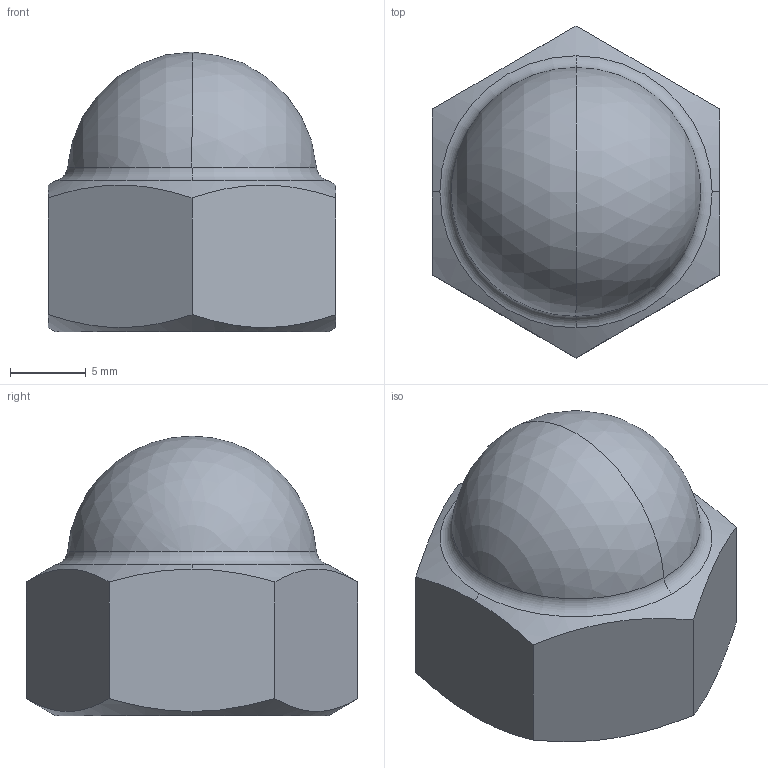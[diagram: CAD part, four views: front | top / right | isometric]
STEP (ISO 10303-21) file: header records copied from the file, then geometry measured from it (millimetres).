
FILE_DESCRIPTION (( 'STEP AP214' ), '1' );
FILE_NAME ('Domed-cap-nut-3-2-M12.STEP', '2024-03-24T06:39:40', ( 'ASIS User' ), ( 'ASIS User' ), 'SwSTEP 2.0', 'SolidWorks 2023', '' );
FILE_SCHEMA (( 'AUTOMOTIVE_DESIGN' ));
Length unit declared in the file: millimetre
Products named in the file (1): Domed-cap-nut-3-2-M12
Bounding box: 19 x 21.94 x 18.5 mm (x, y, z)
Volume: 2716.9 mm3; surface area: 2044.3 mm2
Topology: 1 solids, 1 shells, 26 faces, 64 edges, 40 vertices
Faces by surface type: cone 8, plane 8, cylinder 4, sphere 4, torus 2
Entity records: 881 total; most frequent: CARTESIAN_POINT 257, DIRECTION 128, ORIENTED_EDGE 124, EDGE_CURVE 62, AXIS2_PLACEMENT_3D 55, VERTEX_POINT 40, EDGE_LOOP 28, CIRCLE 28
